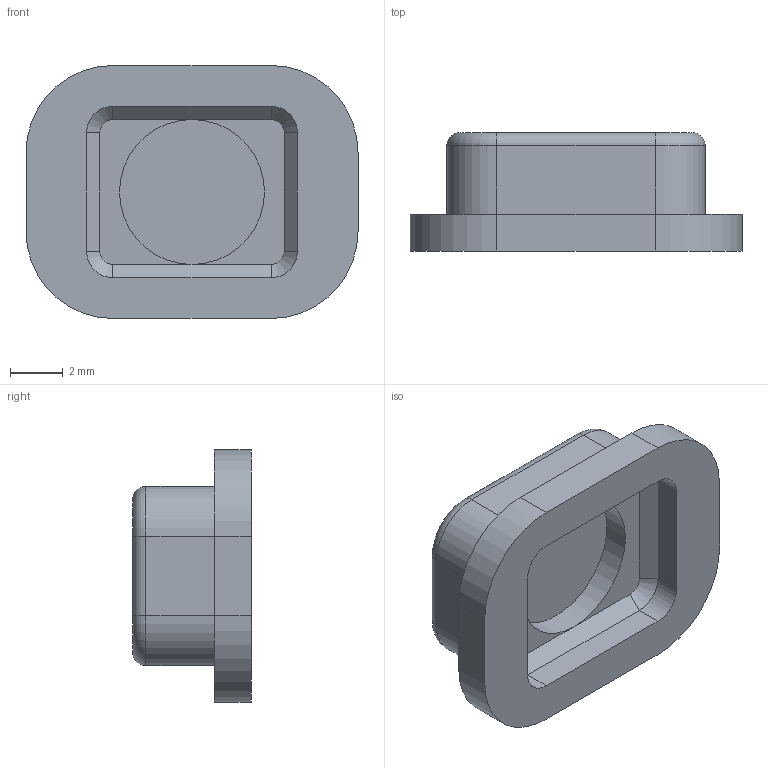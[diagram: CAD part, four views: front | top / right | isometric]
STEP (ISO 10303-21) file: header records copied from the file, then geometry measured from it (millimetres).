
FILE_DESCRIPTION(/* description */ ('STEP AP242','CAx-IF Rec.Pracs.---Representation and Presentation of Product Manufacturing Information (PMI)---4.0---2014-10-13','CAx-IF Rec.Pracs.---3D Tessellated Geometry---0.4---2014-09-14','2;1'),/* implementation_level */ '2;1');
FILE_NAME(/* name */ '687e696ef344454910d475eb',/* time_stamp */ '2025-07-21T16:23:11Z',/* author */ (''),/* organization */ (''),/* preprocessor_version */ 'ST-DEVELOPER v20',/* originating_system */ 'ONSHAPE BY PTC INC, 1.201',/* authorisation */ ' ');
FILE_SCHEMA (('AP242_MANAGED_MODEL_BASED_3D_ENGINEERING_MIM_LF { 1 0 10303 442 1 1 4 }'));
Length unit declared in the file: metre
Products named in the file (1): Screen Menu Button
Bounding box: 12.6 x 4.5 x 9.6 mm (x, y, z)
Volume: 252 mm3; surface area: 421.8 mm2
Topology: 1 solids, 1 shells, 74 faces, 182 edges, 115 vertices
Faces by surface type: plane 37, cylinder 29, torus 4, cone 4
Full cylindrical faces by diameter (mm): 5.5 x1
Entity records: 2198 total; most frequent: DIRECTION 398, CARTESIAN_POINT 371, ORIENTED_EDGE 362, EDGE_CURVE 181, AXIS2_PLACEMENT_3D 142, VERTEX_POINT 115, LINE 114, VECTOR 114
